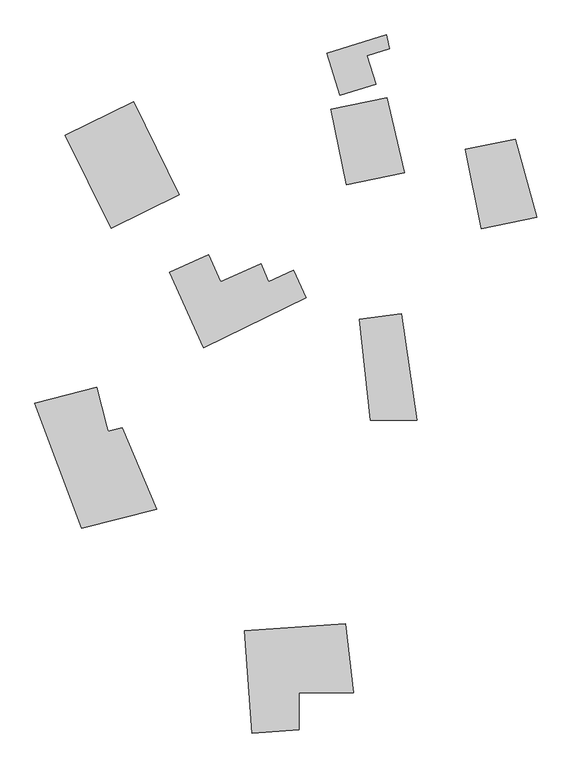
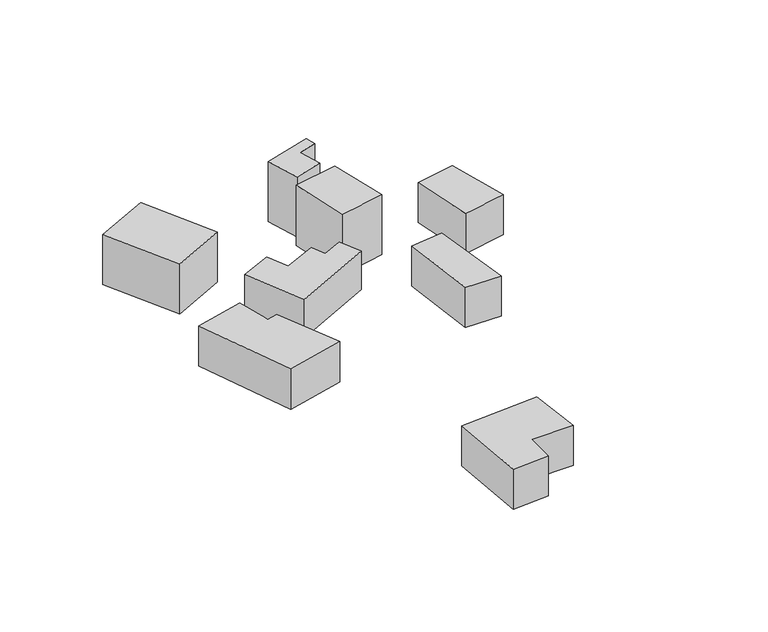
"""IFC4 building model written with IfcOpenShell, lengths in millimetres: geographic element geometry, Village buildings : Village buildings."""

import ifcopenshell
import ifcopenshell.guid

model = None  # the IFC model being written
_history = None  # IfcOwnerHistory: only IFC2X3 demands one
_inside = {}  # id of a spatial element -> (the spatial element, [elements in it])
_under = {}  # id of a project, library or spatial element -> (it, [spatial elements below it])
_declared = {}  # id of a project -> (the project, [libraries it declares])
_typed = {}  # id of a type object -> (the type object, [elements of that type])
_made_of = {}  # id of a material, layer set ... -> (it, [elements and type objects made of it])


def new_model(schema):
    """Start an empty IFC model of exactly this schema.

    Asked for "IFC4X3", IfcOpenShell would pick the latest addendum, in which some entities
    have other attributes; the version numbers below select the first issue.
    IFC2X3 requires an IfcOwnerHistory on every rooted entity: one is made here for all.
    """
    global model, _history
    if schema == "IFC4X3":
        model = ifcopenshell.file(schema_version=(4, 3, 0, 0))
    else:
        model = ifcopenshell.file(schema=schema)
    _inside.clear()
    _under.clear()
    _declared.clear()
    _typed.clear()
    _made_of.clear()
    _history = None
    if model.schema == "IFC2X3":
        org = make("IfcOrganization", Name="unknown")
        user = make(
            "IfcPersonAndOrganization",
            ThePerson=make("IfcPerson", FamilyName="unknown"),
            TheOrganization=org,
        )
        app = make(
            "IfcApplication",
            ApplicationDeveloper=org,
            Version="unknown",
            ApplicationFullName="unknown",
            ApplicationIdentifier="unknown",
        )
        _history = make(
            "IfcOwnerHistory",
            OwningUser=user,
            OwningApplication=app,
            ChangeAction="ADDED",
            CreationDate=0,
        )
    return model


def make(cls, **values):
    """One entity of the class cls with the attributes given. An attribute that is None is left unset."""
    return model.create_entity(
        cls, **{name: value for name, value in values.items() if value is not None}
    )


def rooted(cls, **values):
    """An entity with a GlobalId (a new one), such as an element, a storey or a relation."""
    return make(cls, GlobalId=ifcopenshell.guid.new(), OwnerHistory=_history, **values)


def si_unit(unit_type, name, prefix=None):
    """IfcSIUnit, for example si_unit("LENGTHUNIT", "METRE", prefix="MILLI")."""
    return make("IfcSIUnit", UnitType=unit_type, Prefix=prefix, Name=name)


def assignment(units):
    """IfcUnitAssignment: the units of a project."""
    return None if units is None else make("IfcUnitAssignment", Units=units)


def point(xyz):
    """IfcCartesianPoint."""
    return None if xyz is None else make("IfcCartesianPoint", Coordinates=xyz)


def direction(xyz):
    """IfcDirection."""
    return None if xyz is None else make("IfcDirection", DirectionRatios=xyz)


def frame(location, z_axis=None, x_axis=None):
    """IfcAxis2Placement3D, a coordinate frame: its origin and axes. An axis left out is left unset."""
    return make(
        "IfcAxis2Placement3D",
        Location=point(location),
        Axis=direction(z_axis),
        RefDirection=direction(x_axis),
    )


def origin():
    """The frame at (0, 0, 0) with its axes left unset."""
    return frame((0.0, 0.0, 0.0))


def place(relative_to, where):
    """IfcLocalPlacement: puts the frame where relative to a parent placement (None: the world)."""
    return make(
        "IfcLocalPlacement", PlacementRelTo=relative_to, RelativePlacement=where
    )


def context(
    kind, dimensions, precision=None, world=None, true_north=None, identifier=None
):
    """IfcGeometricRepresentationContext, for example the 3D "Model" context."""
    return make(
        "IfcGeometricRepresentationContext",
        ContextIdentifier=identifier,
        ContextType=kind,
        CoordinateSpaceDimension=dimensions,
        Precision=precision,
        WorldCoordinateSystem=world,
        TrueNorth=true_north,
    )


def project(units=None, contexts=None):
    """IfcProject with its units and contexts."""
    return rooted(
        "IfcProject",
        Name="project",
        RepresentationContexts=contexts,
        UnitsInContext=assignment(units),
    )


def spatial(cls, under=None, at=None, **own):
    """A site, building, storey or space (cls), placed at a placement, below another one or the project."""
    s = rooted(cls, ObjectPlacement=at, **own)
    if under is not None:
        _under.setdefault(under.id(), (under, []))[1].append(s)
    return s


def polyline(points):
    """IfcPolyline through the points."""
    return make("IfcPolyline", Points=[point(p) for p in points])


def outline(outer, holes=None, kind="AREA"):
    """IfcArbitraryClosedProfileDef: a profile drawn as a closed curve; with holes, ...WithVoids."""
    if holes is None:
        return make("IfcArbitraryClosedProfileDef", ProfileType=kind, OuterCurve=outer)
    return make(
        "IfcArbitraryProfileDefWithVoids",
        ProfileType=kind,
        OuterCurve=outer,
        InnerCurves=holes,
    )


def extrude(swept, where, along, depth):
    """IfcExtrudedAreaSolid: the profile swept, set in the frame where, extruded along a direction by depth."""
    return make(
        "IfcExtrudedAreaSolid",
        SweptArea=swept,
        Position=where,
        ExtrudedDirection=direction(along),
        Depth=depth,
    )


def shape(context_of_items, identifier, shape_type, items):
    """IfcShapeRepresentation: the items that make up one representation, for example the "Body"."""
    return make(
        "IfcShapeRepresentation",
        ContextOfItems=context_of_items,
        RepresentationIdentifier=identifier,
        RepresentationType=shape_type,
        Items=items,
    )


def source(mapping_origin, context_of_items, identifier, shape_type, items):
    """IfcRepresentationMap: a shape defined once, which mapped items show again and again."""
    return make(
        "IfcRepresentationMap",
        MappingOrigin=mapping_origin,
        MappedRepresentation=shape(context_of_items, identifier, shape_type, items),
    )


def transform(
    local_origin,
    x_axis=None,
    y_axis=None,
    z_axis=None,
    scale=None,
    scale2=None,
    scale3=None,
    uniform=True,
):
    """IfcCartesianTransformationOperator3D, or its non-uniform kind. x_axis, y_axis, z_axis: its Axis1, 2, 3."""
    if uniform:
        return make(
            "IfcCartesianTransformationOperator3D",
            Axis1=direction(x_axis),
            Axis2=direction(y_axis),
            LocalOrigin=point(local_origin),
            Scale=scale,
            Axis3=direction(z_axis),
        )
    return make(
        "IfcCartesianTransformationOperator3DnonUniform",
        Axis1=direction(x_axis),
        Axis2=direction(y_axis),
        LocalOrigin=point(local_origin),
        Scale=scale,
        Axis3=direction(z_axis),
        Scale2=scale2,
        Scale3=scale3,
    )


def mapped(mapping_source, mapping_target):
    """IfcMappedItem: shows the shape of a source again, moved by a transform."""
    return make(
        "IfcMappedItem", MappingSource=mapping_source, MappingTarget=mapping_target
    )


def made_of(thing, what):
    """Note that an element or type object is made of a material, layer set ...; save() writes the relation."""
    if what is not None:
        _made_of.setdefault(what.id(), (what, []))[1].append(thing)
    return thing


def element(
    cls,
    number,
    at=None,
    inside=None,
    cuts=None,
    type_object=None,
    material=None,
    context=None,
    identifier="Body",
    shape_type=None,
    held_by="IfcProductDefinitionShape",
    body=None,
    shapes=None,
    **own,
):
    """One element of the class cls, such as IfcWall. Its Tag is "e" and its number.

    at: its placement. inside: the storey or other place that contains it. cuts: it is an
    opening in that element (IfcRelVoidsElement). A single representation is given by context,
    identifier, shape_type and body (its items); several are given by shapes. held_by: the class
    of the entity that holds the representations. save() writes the other relations.
    """
    e = rooted(cls, Tag="e%d" % number, ObjectPlacement=at, **own)
    if body is not None:
        shapes = [shape(context, identifier, shape_type, body)]
    if shapes is not None:
        e.Representation = make(held_by, Representations=shapes)
    if inside is not None:
        _inside.setdefault(inside.id(), (inside, []))[1].append(e)
    if cuts is not None:
        rooted(
            "IfcRelVoidsElement", RelatingBuildingElement=cuts, RelatedOpeningElement=e
        )
    if type_object is not None:
        _typed.setdefault(type_object.id(), (type_object, []))[1].append(e)
    return made_of(e, material)


def aggregate(whole, parts):
    """IfcRelAggregates: a whole, such as a stair, and the parts it consists of."""
    return rooted("IfcRelAggregates", RelatingObject=whole, RelatedObjects=parts)


def save(model, path):
    """Write the relations noted so far, then the file.

    IfcRelAggregates (storeys below a building ...), IfcRelContainedInSpatialStructure (elements
    in a storey), IfcRelDefinesByType, IfcRelAssociatesMaterial and IfcRelDeclares: one each for
    every whole, place, type object, material and project.
    """
    for whole, parts in _under.values():
        aggregate(whole, parts)
    for where, things in _inside.values():
        rooted(
            "IfcRelContainedInSpatialStructure",
            RelatedElements=things,
            RelatingStructure=where,
        )
    for kind, things in _typed.values():
        rooted("IfcRelDefinesByType", RelatedObjects=things, RelatingType=kind)
    for what, things in _made_of.values():
        rooted("IfcRelAssociatesMaterial", RelatedObjects=things, RelatingMaterial=what)
    for by, libraries in _declared.values():
        rooted("IfcRelDeclares", RelatingContext=by, RelatedDefinitions=libraries)
    model.write(path)


def geographic_element_8d537427(model_context):
    return source(origin(), model_context, "Body", "SweptSolid", [
        extrude(outline(polyline([(44203.6107184, -22259.7729355), (51546.1253582, -21743.9250383), (52119.7601809, -26787.7716386), (48159.6506357, -26787.7716386), (48159.6506357, -29481.3390428), (44727.8996697, -29722.4364877), (44203.6107184, -22259.7729355)])), frame((0.0, 0.0, 229200.0), z_axis=(0.0, 0.0, 1.0), x_axis=(1.0, 0.0, 0.0)), (0.0, 0.0, 1.0), 4000.0),
        extrude(outline(polyline([(63930.6436294, 13528.5985315), (65499.9640651, 7844.7058089), (61460.3339477, 7019.0940297), (60282.3256982, 12782.962379), (63930.6436294, 13528.5985315)])), frame((0.0, 0.0, 226600.0), z_axis=(0.0, 0.0, 1.0), x_axis=(1.0, 0.0, 0.0)), (0.0, 0.0, 1.0), 4000.0),
        extrude(outline(polyline([(55609.44994, 795.6793857), (56746.4493018, -6934.1143396), (53381.5518058, -6934.1143396), (52553.3569817, 411.7999524), (55609.44994, 795.6793857)])), frame((0.0, 0.0, 230500.0), z_axis=(0.0, 0.0, 1.0), x_axis=(1.0, 0.0, 0.0)), (0.0, 0.0, 1.0), 4000.0),
        extrude(outline(polyline([(35256.1706663, -7479.9755239), (37769.0992857, -13432.7150245), (32319.7147515, -14815.1046959), (28909.9711966, -5719.7229256), (33420.8857195, -4545.9238551), (34154.9996982, -7367.1268116), (34252.3349886, -7741.1867217), (35256.1706663, -7479.9755239)])), frame((0.0, 0.0, 234500.0), z_axis=(0.0, 0.0, 1.0), x_axis=(1.0, 0.0, 0.0)), (0.0, 0.0, 1.0), 4000.0),
        extrude(outline(polyline([(42456.3713767, 3140.2043723), (45381.7400892, 4441.3791767), (45952.9962898, 3157.0513443), (47772.0265702, 3966.1378568), (48659.6135015, 1970.6188616), (41197.391059, -1678.7836836), (38742.4869944, 3840.4590181), (41582.9526071, 5103.8697712), (42456.3713767, 3140.2043723)])), frame((0.0, 0.0, 230546.9462647), z_axis=(0.0, 0.0, 1.0), x_axis=(1.0, 0.0, 0.0)), (0.0, 0.0, 1.0), 3843.0126046),
        extrude(outline(polyline([(54575.9354926, 16545.095775), (55848.6306986, 11068.3120837), (51617.5443694, 10204.604313), (50493.3591486, 15711.7039132), (54575.9354926, 16545.095775)])), frame((0.0, 0.0, 226000.0), z_axis=(0.0, 0.0, 1.0), x_axis=(1.0, 0.0, 0.0)), (0.0, 0.0, 1.0), 6000.0),
        extrude(outline(polyline([(53113.1151005, 19605.8323292), (53757.1752216, 17517.4529277), (51141.2992013, 16710.7118608), (50194.3487634, 19781.2199145), (54519.8590943, 21115.2154067), (54747.6486505, 20109.9255392), (53113.1151005, 19605.8323292)])), frame((0.0, 0.0, 226000.0), z_axis=(0.0, 0.0, 1.0), x_axis=(1.0, 0.0, 0.0)), (0.0, 0.0, 1.0), 6000.0),
        extrude(outline(polyline([(36089.5245344, 16235.4698588), (39425.6839758, 9480.6104438), (34477.9063536, 7036.951144), (31125.8943462, 13823.9079023), (36089.5245344, 16235.4698588)])), frame((0.0, 0.0, 230000.0), z_axis=(0.0, 0.0, 1.0), x_axis=(1.0, 0.0, 0.0)), (0.0, 0.0, 1.0), 5000.0),
    ])


if __name__ == "__main__":
    model = new_model("IFC4")
    model_context = context("Model", 3, world=origin())
    ifc_project = project(units=[si_unit("LENGTHUNIT", "METRE", prefix="MILLI")], contexts=[model_context])
    site = spatial("IfcSite", under=ifc_project)
    building = spatial("IfcBuilding", under=site)
    placement = place(None, origin())
    geographic_element_shape = geographic_element_8d537427(model_context)
    element("IfcGeographicElement", 1, ObjectType="Village buildings : Village buildings", at=placement, inside=building, context=model_context, shape_type="MappedRepresentation", body=[
        mapped(geographic_element_shape, transform((0.0, 0.0, 0.0), x_axis=(1.0, 0.0, 0.0), y_axis=(0.0, 1.0, 0.0), z_axis=(0.0, 0.0, 1.0))),
    ])
    save(model, "model.ifc")
